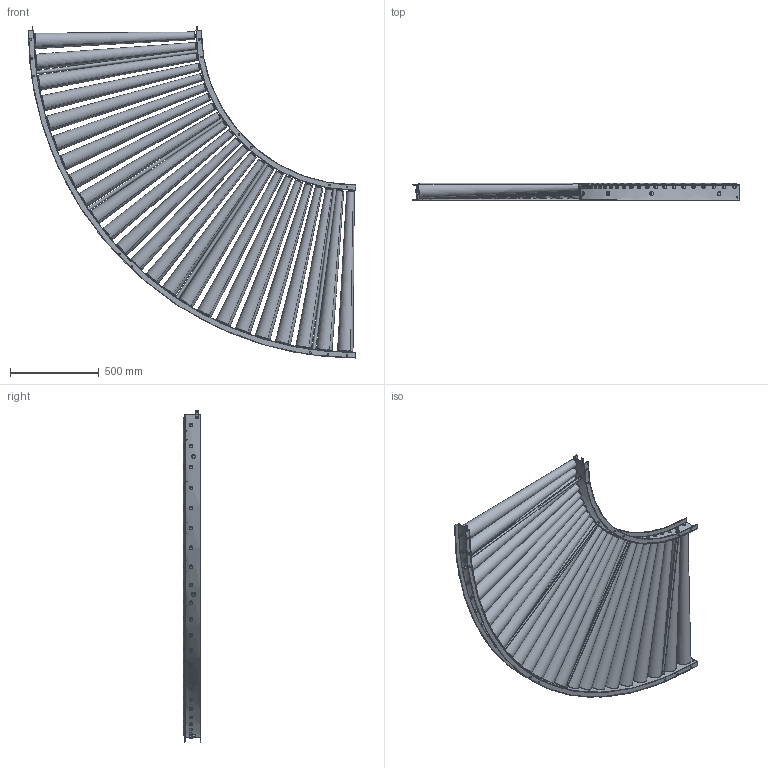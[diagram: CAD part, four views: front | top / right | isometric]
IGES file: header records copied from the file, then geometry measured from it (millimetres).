
Start section: SolidWorks IGES file using analytic representation for surfaces
Global section: file name: C:\Users\0656\Desktop\変換ツール\iges変換\R-TCL900.igs; native system: SolidWorks 2023; preprocessor: SolidWorks 2023; author: 0656; date: 240315.112246; units: millimetre
Bounding box: 1845 x 98.02 x 1870.1 mm (x, y, z)
Surface area: 8265450.3 mm2 (no closed solid volume)
Topology: 0 solids, 0 shells, 972 faces, 21280 edges, 21280 vertices
Faces by surface type: revolution 524, bspline 448
